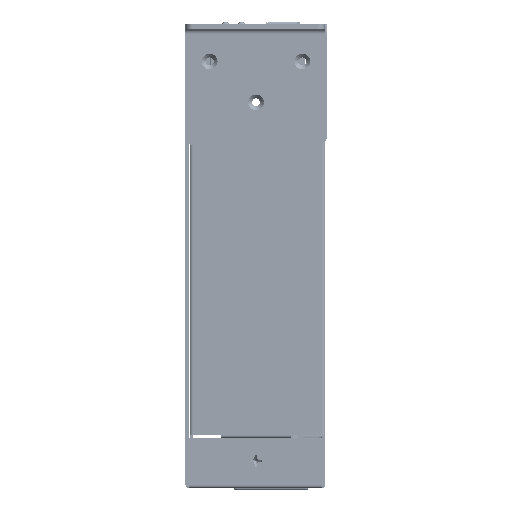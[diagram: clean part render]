
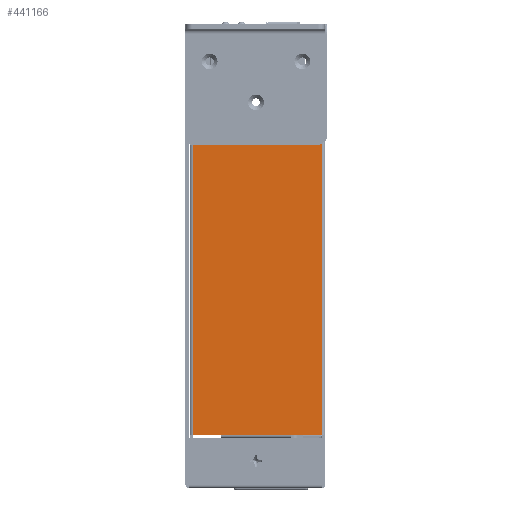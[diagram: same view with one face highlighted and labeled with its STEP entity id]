
A CAD part, left-side view. The second image highlights one B-rep face of the part: STEP entity #441166.
In plain terms, the highlighted planar face has unit normal (-1, 0, 0).
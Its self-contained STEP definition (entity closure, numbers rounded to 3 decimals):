
#2448=FACE_BOUND('',#55537,.T.);
#8497=CIRCLE('',#471824,1.265);
#32326=FACE_OUTER_BOUND('',#55536,.T.);
#55536=EDGE_LOOP('',(#392906,#392907,#392908,#392909,#392910,#392911,#392912,
#392913));
#55537=EDGE_LOOP('',(#392914));
#110795=LINE('',#726744,#167499);
#110802=LINE('',#726764,#167506);
#110891=LINE('',#726977,#167595);
#110892=LINE('',#726979,#167596);
#110893=LINE('',#726980,#167597);
#110894=LINE('',#726982,#167598);
#110895=LINE('',#726983,#167599);
#110896=LINE('',#726984,#167600);
#167499=VECTOR('',#580948,10.);
#167506=VECTOR('',#580971,10.);
#167595=VECTOR('',#581188,10.);
#167596=VECTOR('',#581189,10.);
#167597=VECTOR('',#581190,10.);
#167598=VECTOR('',#581191,10.);
#167599=VECTOR('',#581192,10.);
#167600=VECTOR('',#581193,10.);
#207976=VERTEX_POINT('',#726741);
#207977=VERTEX_POINT('',#726743);
#207981=VERTEX_POINT('',#726760);
#207982=VERTEX_POINT('',#726762);
#208041=VERTEX_POINT('',#726975);
#208042=VERTEX_POINT('',#726976);
#208043=VERTEX_POINT('',#726978);
#208044=VERTEX_POINT('',#726981);
#208045=VERTEX_POINT('',#726985);
#270291=EDGE_CURVE('',#207977,#207976,#110795,.T.);
#270302=EDGE_CURVE('',#207981,#207982,#110802,.T.);
#270411=EDGE_CURVE('',#208041,#208042,#110891,.T.);
#270412=EDGE_CURVE('',#208042,#208043,#110892,.T.);
#270413=EDGE_CURVE('',#208043,#207981,#110893,.T.);
#270414=EDGE_CURVE('',#207982,#208044,#110894,.T.);
#270415=EDGE_CURVE('',#208044,#207977,#110895,.T.);
#270416=EDGE_CURVE('',#207976,#208041,#110896,.T.);
#270417=EDGE_CURVE('',#208045,#208045,#8497,.T.);
#392906=ORIENTED_EDGE('',*,*,#270411,.T.);
#392907=ORIENTED_EDGE('',*,*,#270412,.T.);
#392908=ORIENTED_EDGE('',*,*,#270413,.T.);
#392909=ORIENTED_EDGE('',*,*,#270302,.T.);
#392910=ORIENTED_EDGE('',*,*,#270414,.T.);
#392911=ORIENTED_EDGE('',*,*,#270415,.T.);
#392912=ORIENTED_EDGE('',*,*,#270291,.T.);
#392913=ORIENTED_EDGE('',*,*,#270416,.T.);
#392914=ORIENTED_EDGE('',*,*,#270417,.T.);
#419530=PLANE('',#471823);
#441166=ADVANCED_FACE('',(#32326,#2448),#419530,.T.);
#471823=AXIS2_PLACEMENT_3D('',#726974,#581186,#581187);
#471824=AXIS2_PLACEMENT_3D('',#726986,#581194,#581195);
#580948=DIRECTION('',(0.,1.,0.));
#580971=DIRECTION('',(0.,0.,1.));
#581186=DIRECTION('center_axis',(-1.,0.,0.));
#581187=DIRECTION('ref_axis',(0.,0.,
-1.));
#581188=DIRECTION('',(0.,-1.,0.));
#581189=DIRECTION('',(0.,-1.,0.));
#581190=DIRECTION('',(0.,-1.,0.));
#581191=DIRECTION('',(0.,1.,0.));
#581192=DIRECTION('',(0.,1.,0.));
#581193=DIRECTION('',(0.,0.,-1.));
#581194=DIRECTION('center_axis',(1.,0.,0.));
#581195=DIRECTION('ref_axis',(0.,-1.,0.));
#726741=CARTESIAN_POINT('',(-242.4,35.09,-15.01));
#726743=CARTESIAN_POINT('',(-242.4,26.09,-15.01));
#726744=CARTESIAN_POINT('',(-242.4,24.929,-15.01));
#726760=CARTESIAN_POINT('',(-242.4,-5.99,-127.99));
#726762=CARTESIAN_POINT('',(-242.4,-5.99,-15.01));
#726764=CARTESIAN_POINT('',(-242.4,-5.99,-79.15));
#726974=CARTESIAN_POINT('Origin',(-242.4,14.768,-79.15));
#726975=CARTESIAN_POINT('',(-242.4,35.09,-127.99));
#726976=CARTESIAN_POINT('',(-242.4,26.09,-127.99));
#726977=CARTESIAN_POINT('',(-242.4,4.389,-127.99));
#726978=CARTESIAN_POINT('',(-242.4,4.01,-127.99));
#726979=CARTESIAN_POINT('',(-242.4,4.389,-127.99));
#726980=CARTESIAN_POINT('',(-242.4,4.389,-127.99));
#726981=CARTESIAN_POINT('',(-242.4,4.01,-15.01));
#726982=CARTESIAN_POINT('',(-242.4,24.929,-15.01));
#726983=CARTESIAN_POINT('',(-242.4,24.929,-15.01));
#726984=CARTESIAN_POINT('',(-242.4,35.09,-104.075));
#726985=CARTESIAN_POINT('',(-242.4,16.264,-22.4));
#726986=CARTESIAN_POINT('Origin',(-242.4,15.,-22.4));
